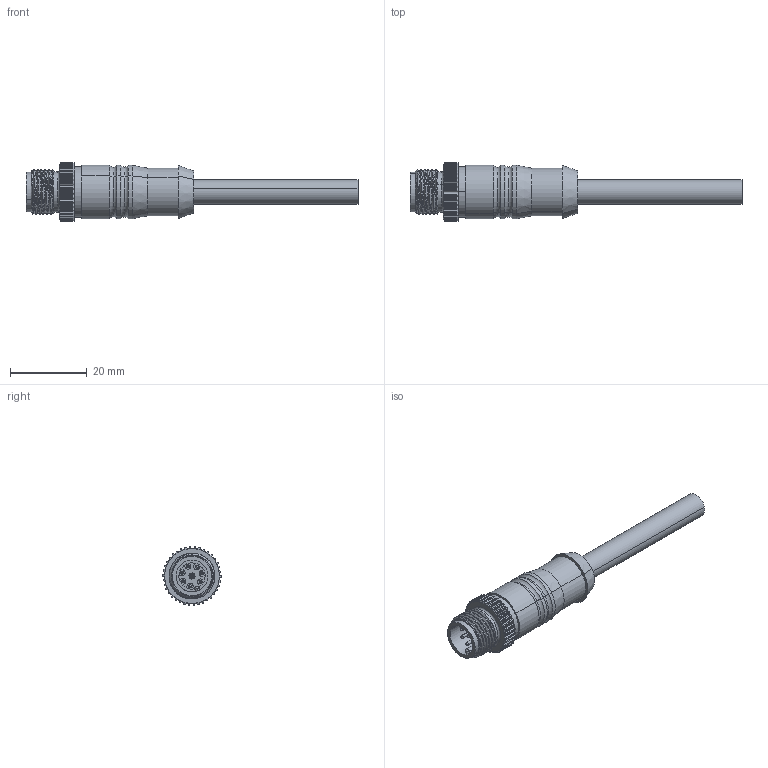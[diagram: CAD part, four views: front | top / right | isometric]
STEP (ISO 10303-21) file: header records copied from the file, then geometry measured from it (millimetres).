
FILE_DESCRIPTION (( 'STEP AP214' ), '1' );
FILE_NAME ('MDE45-8MP-ZZ.STEP', '2019-09-20T11:26:28', ( '' ), ( '' ), 'SwSTEP 2.0', 'SolidWorks 2018', '' );
FILE_SCHEMA (( 'AUTOMOTIVE_DESIGN' ));
Length unit declared in the file: millimetre
Products named in the file (1): MDE45-8MP-ZZ
Bounding box: 86.6 x 15.24 x 15.21 mm (x, y, z)
Volume: 6593.8 mm3; surface area: 3966.1 mm2
Topology: 2 solids, 4 shells, 436 faces, 1176 edges, 771 vertices
Faces by surface type: cylinder 259, plane 132, torus 28, cone 14, bspline 3
Entity records: 19755 total; most frequent: CARTESIAN_POINT 4227, ORIENTED_EDGE 2352, DIRECTION 2244, EDGE_CURVE 1176, AXIS2_PLACEMENT_3D 882, VERTEX_POINT 771, LINE 480, VECTOR 480
